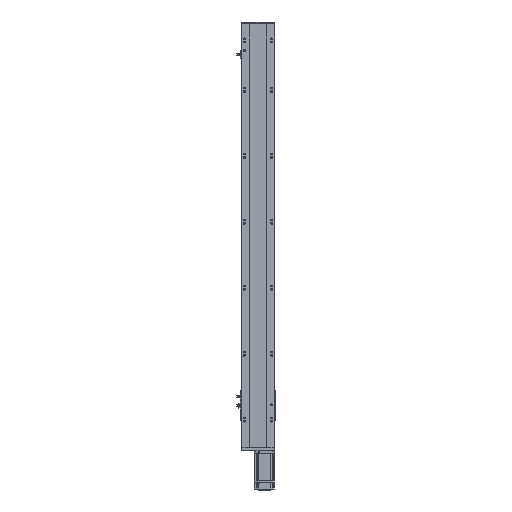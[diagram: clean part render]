
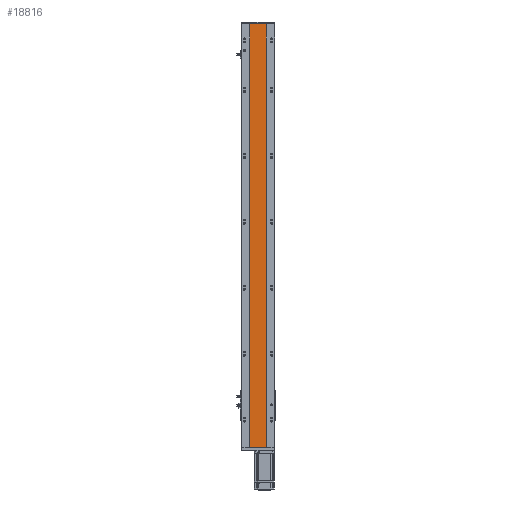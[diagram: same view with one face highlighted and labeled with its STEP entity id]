
A CAD part, front view. The second image highlights one B-rep face of the part: STEP entity #18816.
In plain terms, the highlighted planar face has unit normal (0, -1, 0).
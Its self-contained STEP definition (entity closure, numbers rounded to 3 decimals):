
#1342 = LINE ( 'NONE', #4966, #26159 ) ;
#2141 = CARTESIAN_POINT ( 'NONE',  ( 1579.351, 60.479, 0. ) ) ;
#2555 = DIRECTION ( 'NONE',  ( 0., 0., -1. ) ) ;
#4330 = DIRECTION ( 'NONE',  ( 0., 0., 1. ) ) ;
#4966 = CARTESIAN_POINT ( 'NONE',  ( 1628.351, 60.479, -1284.5 ) ) ;
#5096 = LINE ( 'NONE', #2141, #22189 ) ;
#9233 = VECTOR ( 'NONE', #28528, 1000. ) ;
#9798 = LINE ( 'NONE', #17661, #9233 ) ;
#11160 = EDGE_CURVE ( 'NONE', #29298, #26284, #18886, .T. ) ;
#11203 = CARTESIAN_POINT ( 'NONE',  ( 1579.351, 60.479, -1284.5 ) ) ;
#11282 = EDGE_LOOP ( 'NONE', ( #21840, #34234, #20009, #32129 ) ) ;
#12394 = VERTEX_POINT ( 'NONE', #22524 ) ;
#12851 = FACE_OUTER_BOUND ( 'NONE', #11282, .T. ) ;
#14941 = CARTESIAN_POINT ( 'NONE',  ( 1628.351, 60.479, 0. ) ) ;
#15733 = DIRECTION ( 'NONE',  ( 1., 0., 0. ) ) ;
#17411 = EDGE_CURVE ( 'NONE', #26284, #29060, #5096, .T. ) ;
#17661 = CARTESIAN_POINT ( 'NONE',  ( 1579.351, 60.479, -1284.5 ) ) ;
#18816 = ADVANCED_FACE ( 'NONE', ( #12851 ), #23493, .T. ) ;
#18886 = LINE ( 'NONE', #11203, #20315 ) ;
#19233 = DIRECTION ( 'NONE',  ( 0., 0., 1. ) ) ;
#20009 = ORIENTED_EDGE ( 'NONE', *, *, #21649, .T. ) ;
#20304 = CARTESIAN_POINT ( 'NONE',  ( 1579.351, 60.479, 0. ) ) ;
#20315 = VECTOR ( 'NONE', #19233, 1000. ) ;
#20871 = DIRECTION ( 'NONE',  ( 0., -1., 0. ) ) ;
#21649 = EDGE_CURVE ( 'NONE', #29298, #12394, #9798, .T. ) ;
#21840 = ORIENTED_EDGE ( 'NONE', *, *, #17411, .F. ) ;
#22189 = VECTOR ( 'NONE', #15733, 1000. ) ;
#22524 = CARTESIAN_POINT ( 'NONE',  ( 1628.351, 60.479, -1284.5 ) ) ;
#23493 = PLANE ( 'NONE',  #29743 ) ;
#24027 = CARTESIAN_POINT ( 'NONE',  ( 1579.351, 60.479, -1284.5 ) ) ;
#24090 = EDGE_CURVE ( 'NONE', #12394, #29060, #1342, .T. ) ;
#26159 = VECTOR ( 'NONE', #4330, 1000. ) ;
#26284 = VERTEX_POINT ( 'NONE', #20304 ) ;
#28528 = DIRECTION ( 'NONE',  ( 1., 0., 0. ) ) ;
#29060 = VERTEX_POINT ( 'NONE', #14941 ) ;
#29298 = VERTEX_POINT ( 'NONE', #24027 ) ;
#29743 = AXIS2_PLACEMENT_3D ( 'NONE', #34192, #20871, #2555 ) ;
#32129 = ORIENTED_EDGE ( 'NONE', *, *, #24090, .T. ) ;
#34192 = CARTESIAN_POINT ( 'NONE',  ( 1579.351, 60.479, -1284.5 ) ) ;
#34234 = ORIENTED_EDGE ( 'NONE', *, *, #11160, .F. ) ;
